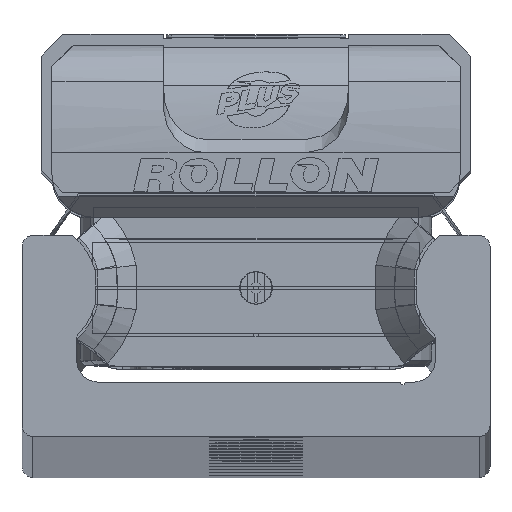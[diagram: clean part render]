
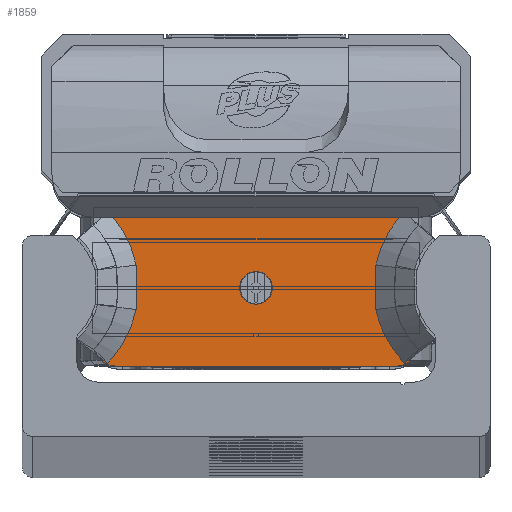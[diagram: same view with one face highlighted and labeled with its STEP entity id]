
A CAD part, top view. The second image highlights one B-rep face of the part: STEP entity #1859.
In plain terms, the highlighted planar face has unit normal (0, 0, 1) as drawn and (0, 0, -1) by its records, which use the part's own axes.
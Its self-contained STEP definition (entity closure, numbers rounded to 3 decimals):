
#1859 = ADVANCED_FACE( '', ( #3996, #3997 ), #3998, .F. );
#3996 = FACE_BOUND( '', #6444, .T. );
#3997 = FACE_OUTER_BOUND( '', #6445, .T. );
#3998 = PLANE( '', #6446 );
#6444 = EDGE_LOOP( '', ( #11505 ) );
#6445 = EDGE_LOOP( '', ( #11506, #11507, #11508, #11509, #11510, #11511, #11512, #11513, #11514, #11515, #11516, #11517 ) );
#6446 = AXIS2_PLACEMENT_3D( '', #11518, #11519, #11520 );
#11505 = ORIENTED_EDGE( '', *, *, #14823, .T. );
#11506 = ORIENTED_EDGE( '', *, *, #14116, .T. );
#11507 = ORIENTED_EDGE( '', *, *, #14989, .F. );
#11508 = ORIENTED_EDGE( '', *, *, #15043, .T. );
#11509 = ORIENTED_EDGE( '', *, *, #15081, .F. );
#11510 = ORIENTED_EDGE( '', *, *, #15082, .T. );
#11511 = ORIENTED_EDGE( '', *, *, #14556, .T. );
#11512 = ORIENTED_EDGE( '', *, *, #13409, .T. );
#11513 = ORIENTED_EDGE( '', *, *, #14816, .T. );
#11514 = ORIENTED_EDGE( '', *, *, #14633, .T. );
#11515 = ORIENTED_EDGE( '', *, *, #13906, .T. );
#11516 = ORIENTED_EDGE( '', *, *, #13933, .T. );
#11517 = ORIENTED_EDGE( '', *, *, #14306, .T. );
#11518 = CARTESIAN_POINT( '', ( 14.9, 7.35, -13.25 ) );
#11519 = DIRECTION( '', ( 0., 0., 1. ) );
#11520 = DIRECTION( '', ( 1., 0., 0. ) );
#13409 = EDGE_CURVE( '', #15990, #15988, #15991, .T. );
#13906 = EDGE_CURVE( '', #16809, #16815, #16817, .T. );
#13933 = EDGE_CURVE( '', #16815, #16860, #16862, .T. );
#14116 = EDGE_CURVE( '', #17154, #16299, #17155, .T. );
#14306 = EDGE_CURVE( '', #16860, #17154, #17450, .T. );
#14556 = EDGE_CURVE( '', #17796, #15990, #17797, .T. );
#14633 = EDGE_CURVE( '', #17898, #16809, #17899, .T. );
#14816 = EDGE_CURVE( '', #15988, #17898, #18143, .T. );
#14823 = EDGE_CURVE( '', #18152, #18152, #18153, .T. );
#14989 = EDGE_CURVE( '', #18373, #16299, #18375, .T. );
#15043 = EDGE_CURVE( '', #18373, #18442, #18444, .T. );
#15081 = EDGE_CURVE( '', #16469, #18442, #18491, .T. );
#15082 = EDGE_CURVE( '', #16469, #17796, #18492, .T. );
#15988 = VERTEX_POINT( '', #19642 );
#15990 = VERTEX_POINT( '', #19645 );
#15991 = B_SPLINE_CURVE_WITH_KNOTS( '', 2, ( #19646, #19647, #19648 ), .UNSPECIFIED., .F., .F., ( 3, 3 ), ( 0., 1. ), .UNSPECIFIED. );
#16299 = VERTEX_POINT( '', #20041 );
#16469 = VERTEX_POINT( '', #20290 );
#16809 = VERTEX_POINT( '', #20724 );
#16815 = VERTEX_POINT( '', #20737 );
#16817 = B_SPLINE_CURVE_WITH_KNOTS( '', 2, ( #20740, #20741, #20742, #20743, #20744 ), .UNSPECIFIED., .F., .F., ( 3, 2, 3 ), ( 0.133, 0.5, 1. ), .UNSPECIFIED. );
#16860 = VERTEX_POINT( '', #20799 );
#16862 = B_SPLINE_CURVE_WITH_KNOTS( '', 2, ( #20802, #20803, #20804 ), .UNSPECIFIED., .F., .F., ( 3, 3 ), ( 0., 1. ), .UNSPECIFIED. );
#17154 = VERTEX_POINT( '', #21206 );
#17155 = B_SPLINE_CURVE_WITH_KNOTS( '', 1, ( #21207, #21208 ), .UNSPECIFIED., .F., .F., ( 2, 2 ), ( 0., 1. ), .UNSPECIFIED. );
#17450 = B_SPLINE_CURVE_WITH_KNOTS( '', 2, ( #21710, #21711, #21712, #21713, #21714 ), .UNSPECIFIED., .F., .F., ( 3, 2, 3 ), ( 0., 0.5, 1. ), .UNSPECIFIED. );
#17796 = VERTEX_POINT( '', #22180 );
#17797 = B_SPLINE_CURVE_WITH_KNOTS( '', 2, ( #22181, #22182, #22183, #22184, #22185 ), .UNSPECIFIED., .F., .F., ( 3, 2, 3 ), ( 0., 0.5, 1. ), .UNSPECIFIED. );
#17898 = VERTEX_POINT( '', #22325 );
#17899 = LINE( '', #22326, #22327 );
#18143 = B_SPLINE_CURVE_WITH_KNOTS( '', 2, ( #22669, #22670, #22671, #22672, #22673 ), .UNSPECIFIED., .F., .F., ( 3, 2, 3 ), ( 0., 0.5, 0.868 ), .UNSPECIFIED. );
#18152 = VERTEX_POINT( '', #22685 );
#18153 = CIRCLE( '', #22686, 1.5 );
#18373 = VERTEX_POINT( '', #22985 );
#18375 = CIRCLE( '', #22988, 2.5 );
#18442 = VERTEX_POINT( '', #23087 );
#18444 = LINE( '', #23090, #23091 );
#18491 = CIRCLE( '', #23157, 2.5 );
#18492 = B_SPLINE_CURVE_WITH_KNOTS( '', 1, ( #23158, #23159 ), .UNSPECIFIED., .F., .F., ( 2, 2 ), ( 0., 1. ), .UNSPECIFIED. );
#19642 = CARTESIAN_POINT( '', ( -11.012, 2.045, -13.25 ) );
#19645 = CARTESIAN_POINT( '', ( -11.012, -2.045, -13.25 ) );
#19646 = CARTESIAN_POINT( '', ( -11.012, -2.045, -13.25 ) );
#19647 = CARTESIAN_POINT( '', ( -10.888, 0., -13.25 ) );
#19648 = CARTESIAN_POINT( '', ( -11.012, 2.045, -13.25 ) );
#20041 = CARTESIAN_POINT( '', ( 14.906, -5.717, -13.25 ) );
#20290 = CARTESIAN_POINT( '', ( -14.904, -5.718, -13.25 ) );
#20724 = CARTESIAN_POINT( '', ( 13.12, 6.4, -13.25 ) );
#20737 = CARTESIAN_POINT( '', ( 11.012, 2.045, -13.25 ) );
#20740 = CARTESIAN_POINT( '', ( 13.119, 6.4, -13.25 ) );
#20741 = CARTESIAN_POINT( '', ( 12.459, 5.608, -13.25 ) );
#20742 = CARTESIAN_POINT( '', ( 11.968, 4.684, -13.25 ) );
#20743 = CARTESIAN_POINT( '', ( 11.301, 3.427, -13.25 ) );
#20744 = CARTESIAN_POINT( '', ( 11.012, 2.045, -13.25 ) );
#20799 = CARTESIAN_POINT( '', ( 11.012, -2.045, -13.25 ) );
#20802 = CARTESIAN_POINT( '', ( 11.012, 2.045, -13.25 ) );
#20803 = CARTESIAN_POINT( '', ( 10.888, 0., -13.25 ) );
#20804 = CARTESIAN_POINT( '', ( 11.012, -2.045, -13.25 ) );
#21206 = CARTESIAN_POINT( '', ( 13.628, -6.965, -13.25 ) );
#21207 = CARTESIAN_POINT( '', ( 13.628, -6.965, -13.25 ) );
#21208 = CARTESIAN_POINT( '', ( 14.9, -5.728, -13.25 ) );
#21710 = CARTESIAN_POINT( '', ( 11.012, -2.045, -13.25 ) );
#21711 = CARTESIAN_POINT( '', ( 11.301, -3.43, -13.25 ) );
#21712 = CARTESIAN_POINT( '', ( 11.972, -4.69, -13.25 ) );
#21713 = CARTESIAN_POINT( '', ( 12.642, -5.95, -13.25 ) );
#21714 = CARTESIAN_POINT( '', ( 13.628, -6.965, -13.25 ) );
#22180 = CARTESIAN_POINT( '', ( -13.628, -6.965, -13.25 ) );
#22181 = CARTESIAN_POINT( '', ( -13.628, -6.965, -13.25 ) );
#22182 = CARTESIAN_POINT( '', ( -12.638, -5.946, -13.25 ) );
#22183 = CARTESIAN_POINT( '', ( -11.97, -4.691, -13.25 ) );
#22184 = CARTESIAN_POINT( '', ( -11.303, -3.437, -13.25 ) );
#22185 = CARTESIAN_POINT( '', ( -11.012, -2.045, -13.25 ) );
#22325 = CARTESIAN_POINT( '', ( -13.119, 6.4, -13.25 ) );
#22326 = CARTESIAN_POINT( '', ( 14.9, 6.4, -13.25 ) );
#22327 = VECTOR( '', #25781, 1000. );
#22669 = CARTESIAN_POINT( '', ( -11.012, 2.045, -13.25 ) );
#22670 = CARTESIAN_POINT( '', ( -11.302, 3.432, -13.25 ) );
#22671 = CARTESIAN_POINT( '', ( -11.967, 4.685, -13.25 ) );
#22672 = CARTESIAN_POINT( '', ( -12.456, 5.606, -13.25 ) );
#22673 = CARTESIAN_POINT( '', ( -13.119, 6.4, -13.25 ) );
#22685 = CARTESIAN_POINT( '', ( 1.5, -0.05, -13.25 ) );
#22686 = AXIS2_PLACEMENT_3D( '', #26002, #26003, #26004 );
#22985 = CARTESIAN_POINT( '', ( 12.58, -7.3, -13.25 ) );
#22988 = AXIS2_PLACEMENT_3D( '', #26193, #26194, #26195 );
#23087 = CARTESIAN_POINT( '', ( -12.58, -7.3, -13.25 ) );
#23090 = CARTESIAN_POINT( '', ( 12.58, -7.3, -13.25 ) );
#23091 = VECTOR( '', #26242, 1000. );
#23157 = AXIS2_PLACEMENT_3D( '', #26280, #26281, #26282 );
#23158 = CARTESIAN_POINT( '', ( -14.915, -5.713, -13.25 ) );
#23159 = CARTESIAN_POINT( '', ( -13.628, -6.965, -13.25 ) );
#25781 = DIRECTION( '', ( 1., 0., 0. ) );
#26002 = CARTESIAN_POINT( '', ( 0., -0.05, -13.25 ) );
#26003 = DIRECTION( '', ( 0., 0., 1. ) );
#26004 = DIRECTION( '', ( 1., 0., 0. ) );
#26193 = CARTESIAN_POINT( '', ( 12.58, -4.8, -13.25 ) );
#26194 = DIRECTION( '', ( 0., 0., 1. ) );
#26195 = DIRECTION( '', ( 1., 0., 0. ) );
#26242 = DIRECTION( '', ( -1., 0., 0. ) );
#26280 = CARTESIAN_POINT( '', ( -12.58, -4.8, -13.25 ) );
#26281 = DIRECTION( '', ( 0., 0., 1. ) );
#26282 = DIRECTION( '', ( 1., 0., 0. ) );
